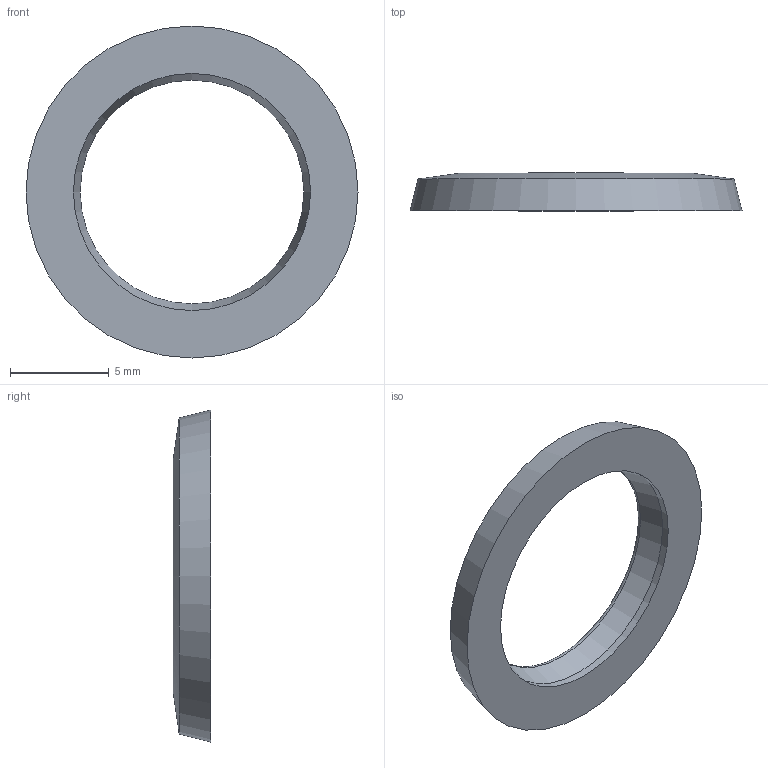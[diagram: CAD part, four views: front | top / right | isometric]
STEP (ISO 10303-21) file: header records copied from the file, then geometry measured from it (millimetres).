
FILE_DESCRIPTION( ( 'STEP AP203' ), '1' );
FILE_NAME( 'C:/Temp/Ganter_Step_05_03_2020/data/3_5/gn7600/Sealing ring GN 7600-16-12-2-EPDM-85.stp', '2020-03-12T13:43:53', ( 'License CC BY-ND 4.0' ), ( 'CADENAS' ), ' ', 'PARTsolutions', ' ' );
FILE_SCHEMA( ( 'CONFIG_CONTROL_DESIGN' ) );
Length unit declared in the file: millimetre
Products named in the file (1): _Sealing ring GN 7600-16-12-2-EPDM-85
Bounding box: 16.8 x 1.9 x 16.8 mm (x, y, z)
Volume: 179.4 mm3; surface area: 363.3 mm2
Topology: 1 solids, 1 shells, 6 faces, 11 edges, 6 vertices
Faces by surface type: cone 3, torus 1, cylinder 1, plane 1
Full cylindrical faces by diameter (mm): 12 x1
Entity records: 172 total; most frequent: DIRECTION 26, CARTESIAN_POINT 19, AXIS2_PLACEMENT_3D 13, EDGE_LOOP 12, ORIENTED_EDGE 12, FACE_OUTER_BOUND 8, ADVANCED_FACE 6, EDGE_CURVE 6
